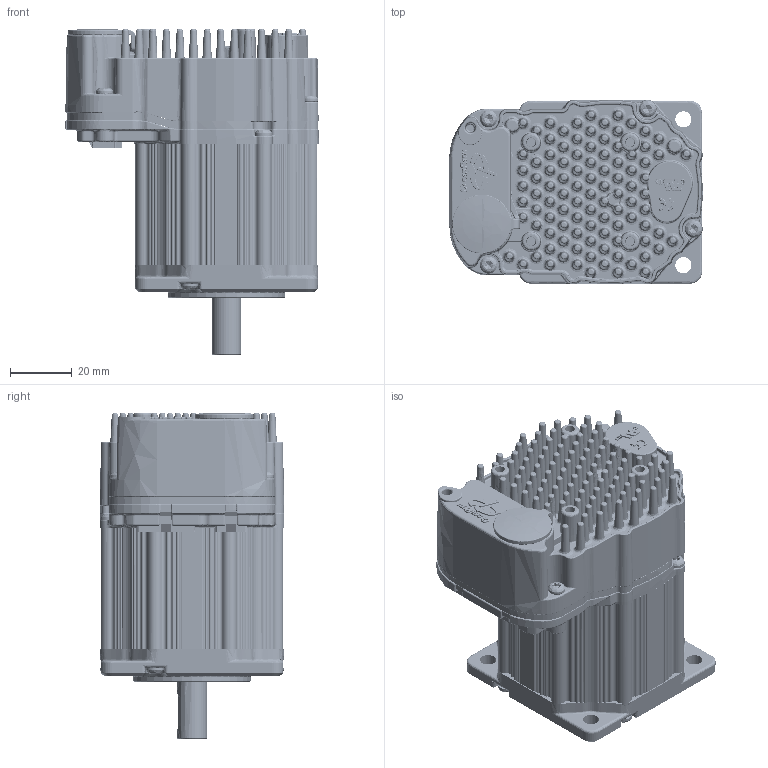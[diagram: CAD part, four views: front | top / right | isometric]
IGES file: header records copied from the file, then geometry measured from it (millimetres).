
Start section: SolidWorks IGES file using analytic representation for surfaces
Global section: file name: C:\TeknicPDM\Clearpath\Customer Downloadable Files\CPM-_ _ _ _ -231x_-LS.IGS; native system: SolidWorks 2020; preprocessor: SolidWorks 2020; author: matt_ciminelli; date: 220624.075131; units: inch
Bounding box: 81.98 x 59.69 x 105.7 mm (x, y, z)
Surface area: 59877.3 mm2 (no closed solid volume)
Topology: 0 solids, 0 shells, 7357 faces, 71920 edges, 71655 vertices
Faces by surface type: revolution 3863, bspline 3494
